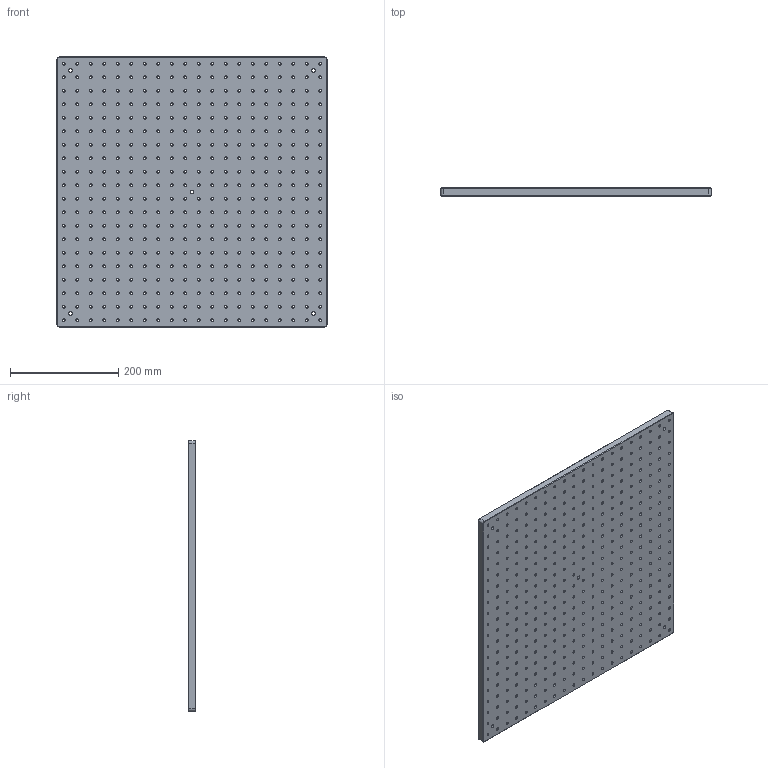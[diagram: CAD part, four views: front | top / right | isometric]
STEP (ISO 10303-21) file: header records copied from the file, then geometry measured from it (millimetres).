
FILE_DESCRIPTION((''),'2;1');
FILE_NAME('MBB-500X500-01_ASM','2024-01-18T14:49:27',('R&D'),(''),'CREO PARAMETRIC BY PTC INC, 2021063','CREO PARAMETRIC BY PTC INC, 2021063','');
FILE_SCHEMA(('CONFIG_CONTROL_DESIGN'));
Length unit declared in the file: millimetre
Products named in the file (2): MBB-500X500-01-1; MBB-500X500-01_ASM
Assembly tree (1 placements, depth 2):
  MBB-500X500-01_ASM
    MBB-500X500-01-1
Bounding box: 500 x 14 x 500 mm (x, y, z)
Volume: 3379721.3 mm3; surface area: 596132.9 mm2
Topology: 1 solids, 1 shells, 1661 faces, 4136 edges, 2482 vertices
Faces by surface type: cylinder 824, cone 818, plane 19
Entity records: 51375 total; most frequent: DIRECTION 9930, CARTESIAN_POINT 8282, ORIENTED_EDGE 8272, EDGE_CURVE 4136, AXIS2_PLACEMENT_3D 4130, VERTEX_POINT 2482, EDGE_LOOP 2476, CIRCLE 2466
